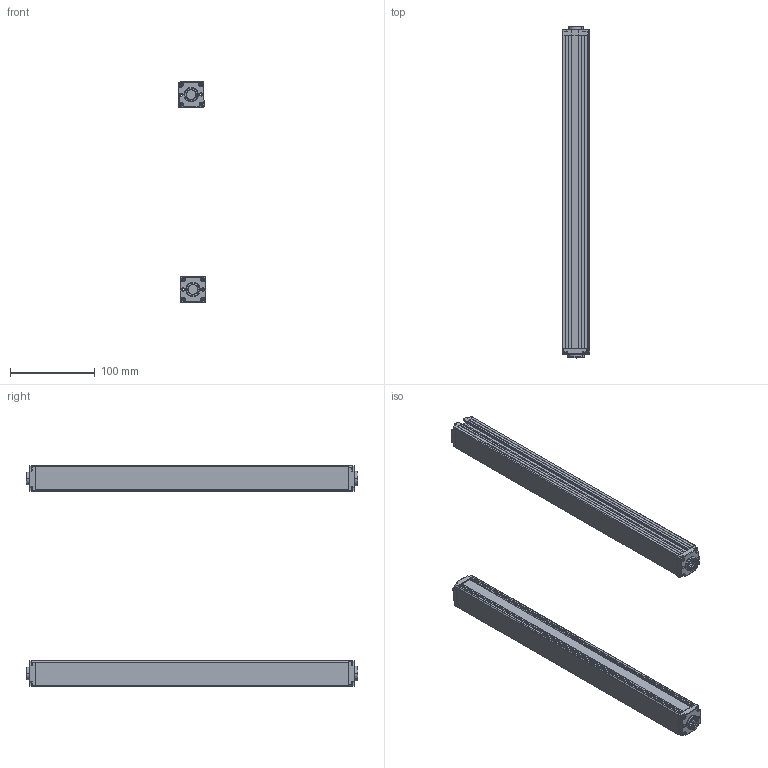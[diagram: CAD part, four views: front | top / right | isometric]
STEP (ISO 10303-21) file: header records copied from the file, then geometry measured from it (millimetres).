
FILE_DESCRIPTION (( 'STEP AP203' ), '1' );
FILE_NAME ('ZDA1820-370.STEP', '2022-08-30T07:29:11', ( 'Windows 蚚誧' ), ( 'Organization' ), 'SwSTEP 2.0', 'SolidWorks 2020', '' );
FILE_SCHEMA (( 'CONFIG_CONTROL_DESIGN' ));
Length unit declared in the file: millimetre
Products named in the file (5): 錨璃10; 錨璃1; ZDA1820-370; 錨璃8; 錨璃8 - 萵掛 (2)
Assembly tree (8 placements, depth 2):
  ZDA1820-370
    錨璃1  x2
    錨璃8  x2
    錨璃8 - 萵掛 (2)  x2
    錨璃10  x2
Bounding box: 32.36 x 391.4 x 260.35 mm (x, y, z)
Volume: 242236.1 mm3; surface area: 258361.7 mm2
Topology: 8 solids, 8 shells, 1032 faces, 2690 edges, 1668 vertices
Faces by surface type: plane 464, cylinder 310, cone 120, bspline 58, torus 48, sphere 32
Entity records: 17901 total; most frequent: CARTESIAN_POINT 4731, ORIENTED_EDGE 2666, DIRECTION 2616, EDGE_CURVE 1333, AXIS2_PLACEMENT_3D 894, VERTEX_POINT 834, VECTOR 828, LINE 828
